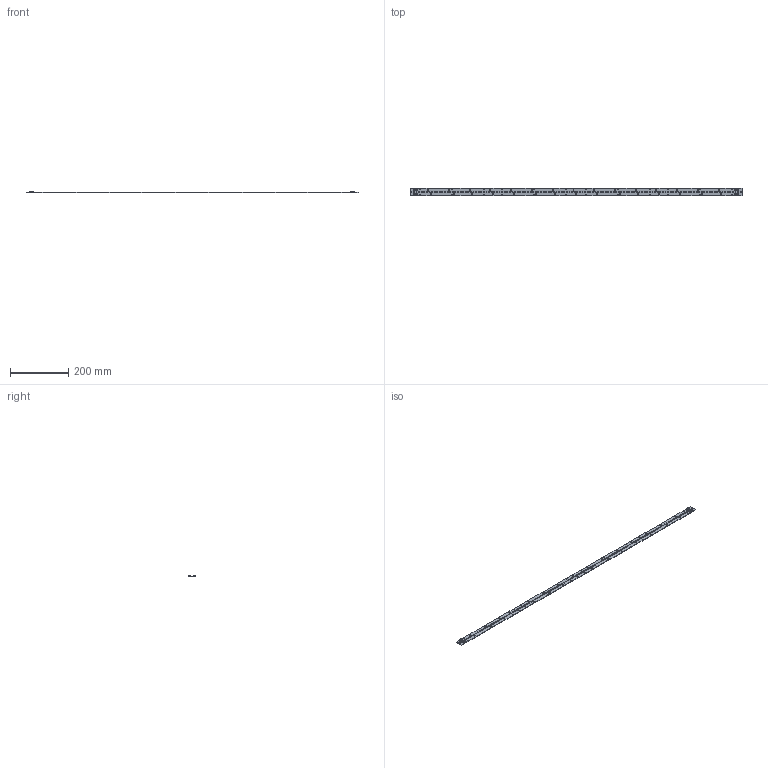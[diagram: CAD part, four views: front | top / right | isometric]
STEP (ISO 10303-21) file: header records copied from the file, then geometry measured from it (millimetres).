
FILE_DESCRIPTION((''),'2;1');
FILE_NAME('EC128DG45_06072021_10-21-23_ASM','2021-06-07T',('SYSTEM'),(''),'PRO/ENGINEER BY PARAMETRIC TECHNOLOGY CORPORATION, 2009360','PRO/ENGINEER BY PARAMETRIC TECHNOLOGY CORPORATION, 2009360','');
FILE_SCHEMA(('AUTOMOTIVE_DESIGN_CC2 { 1 2 10303 214 -1 1 5 2 }'));
Length unit declared in the file: inch
Products named in the file (5): EC128DG45_06072021_10-21-23; 3030_S_LES; R2512; WAGO_2PIN; EC128DG45_06072021_10-21-23_ASM
Assembly tree (163 placements, depth 2):
  EC128DG45_06072021_10-21-23_ASM
    EC128DG45_06072021_10-21-23
    3030_S_LES  x128
    R2512  x30
    WAGO_2PIN  x4
Bounding box: 1143 x 25.4 x 6.34 mm (x, y, z)
Volume: 48041.3 mm3; surface area: 68230.8 mm2
Topology: 163 solids, 163 shells, 5922 faces, 19452 edges, 15392 vertices
Faces by surface type: plane 4700, extrusion 870, cylinder 336, sphere 16
Entity records: 29614 total; most frequent: CARTESIAN_POINT 5378, ORIENTED_EDGE 3870, DIRECTION 3591, EDGE_CURVE 1935, VECTOR 1739, LINE 1710, PRESENTATION_STYLE_ASSIGNMENT 1412, STYLED_ITEM 1412
